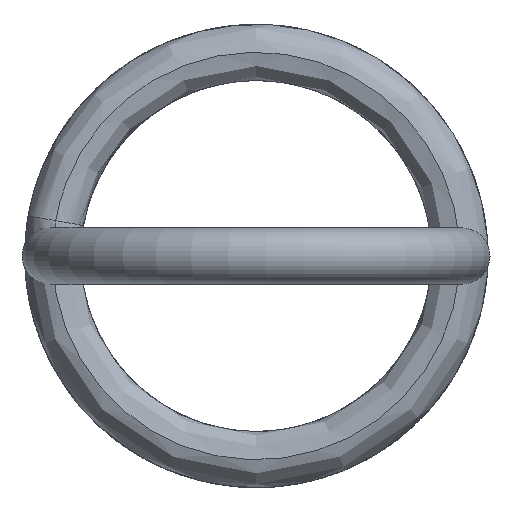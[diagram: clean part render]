
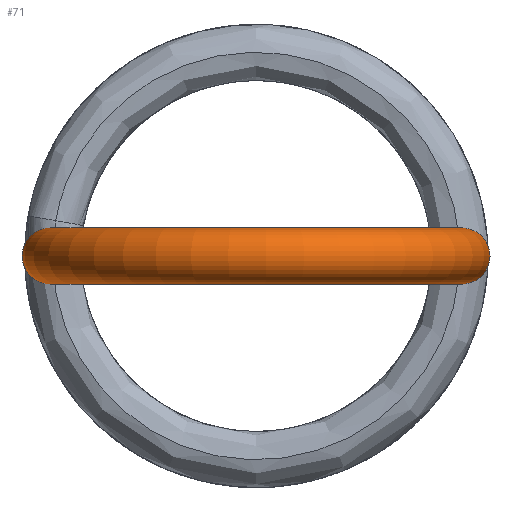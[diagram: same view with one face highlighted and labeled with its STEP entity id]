
A CAD part, left-side view. The second image highlights one B-rep face of the part: STEP entity #71.
In plain terms, the highlighted toroidal (fillet/blend) face has major radius 4.05 mm and minor radius 0.55 mm.
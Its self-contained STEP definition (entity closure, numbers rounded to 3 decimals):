
#44=CARTESIAN_POINT('',(-18.35,0.0,0.0));
#45=DIRECTION('',(0.0,0.0,1.0));
#46=DIRECTION('',(1.0,0.0,0.0));
#47=AXIS2_PLACEMENT_3D('',#44,#45,#46);
#48=TOROIDAL_SURFACE('',#47,4.05,0.55);
#49=CARTESIAN_POINT('',(-17.209,3.309,0.));
#50=VERTEX_POINT('',#49);
#51=CARTESIAN_POINT('',(-17.029,3.829,0.0));
#52=DIRECTION('',(-0.945,0.326,0.0));
#53=DIRECTION('',(0.0,0.0,1.0));
#54=AXIS2_PLACEMENT_3D('',#51,#52,#53);
#55=CIRCLE('',#54,0.55);
#56=EDGE_CURVE('',#50,#50,#55,.T.);
#57=ORIENTED_EDGE('',*,*,#56,.T.);
#58=EDGE_LOOP('',(#57));
#59=FACE_OUTER_BOUND('',#58,.T.);
#60=CARTESIAN_POINT('',(-14.85,0.0,0.));
#61=VERTEX_POINT('',#60);
#62=CARTESIAN_POINT('',(-14.3,0.0,0.0));
#63=DIRECTION('',(0.0,1.0,0.0));
#64=DIRECTION('',(0.0,0.0,1.0));
#65=AXIS2_PLACEMENT_3D('',#62,#63,#64);
#66=CIRCLE('',#65,0.55);
#67=EDGE_CURVE('',#61,#61,#66,.T.);
#68=ORIENTED_EDGE('',*,*,#67,.F.);
#69=EDGE_LOOP('',(#68));
#70=FACE_BOUND('',#69,.T.);
#71=ADVANCED_FACE('',(#59,#70),#48,.T.);
